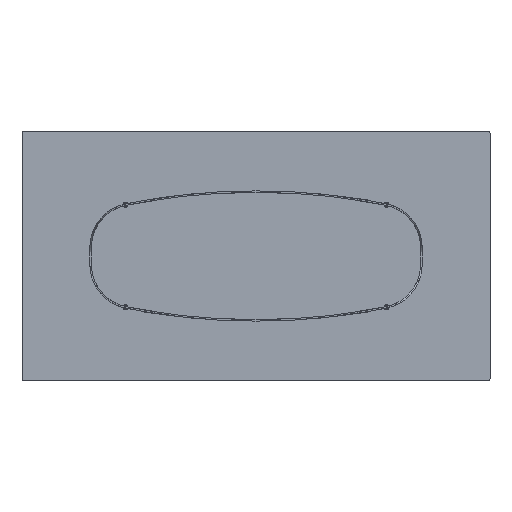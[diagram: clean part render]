
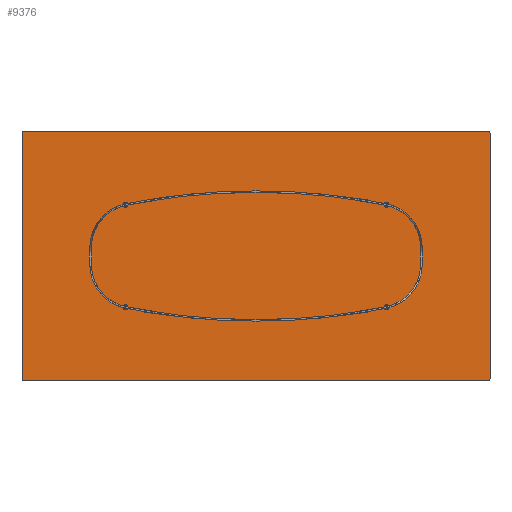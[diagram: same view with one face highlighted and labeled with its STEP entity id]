
A CAD part, front view. The second image highlights one B-rep face of the part: STEP entity #9376.
In plain terms, the highlighted planar face has unit normal (0, -1, 0).
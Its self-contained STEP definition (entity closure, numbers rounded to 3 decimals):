
#65 = CARTESIAN_POINT ( 'NONE',  ( 1000., 0., -525. ) ) ;
#209 = AXIS2_PLACEMENT_3D ( 'NONE', #11189, #4630, #3357 ) ;
#556 = CARTESIAN_POINT ( 'NONE',  ( -1000., 0., -530. ) ) ;
#926 = ORIENTED_EDGE ( 'NONE', *, *, #8266, .T. ) ;
#969 = VERTEX_POINT ( 'NONE', #4380 ) ;
#1160 = CARTESIAN_POINT ( 'NONE',  ( -1000., 0., -525. ) ) ;
#1344 = VERTEX_POINT ( 'NONE', #2923 ) ;
#1709 = VERTEX_POINT ( 'NONE', #7155 ) ;
#2112 = LINE ( 'NONE', #7379, #4562 ) ;
#2194 = DIRECTION ( 'NONE',  ( 0., -1., 0. ) ) ;
#2596 = VERTEX_POINT ( 'NONE', #9387 ) ;
#2645 = CIRCLE ( 'NONE', #10546, 5. ) ;
#2923 = CARTESIAN_POINT ( 'NONE',  ( -1000., 0., 525. ) ) ;
#3112 = ORIENTED_EDGE ( 'NONE', *, *, #5993, .F. ) ;
#3310 = CARTESIAN_POINT ( 'NONE',  ( 995., 0., 525. ) ) ;
#3357 = DIRECTION ( 'NONE',  ( 0., 0., 1. ) ) ;
#3662 = CIRCLE ( 'NONE', #9377, 5. ) ;
#3829 = LINE ( 'NONE', #10213, #8798 ) ;
#4380 = CARTESIAN_POINT ( 'NONE',  ( -995., 0., 530. ) ) ;
#4550 = VECTOR ( 'NONE', #16140, 1000. ) ;
#4562 = VECTOR ( 'NONE', #12570, 1000. ) ;
#4583 = DIRECTION ( 'NONE',  ( 0., 0., 1. ) ) ;
#4630 = DIRECTION ( 'NONE',  ( 0., -1., 0. ) ) ;
#4746 = DIRECTION ( 'NONE',  ( 0., 0., 1. ) ) ;
#4805 = CARTESIAN_POINT ( 'NONE',  ( 995., 0., 530. ) ) ;
#5010 = DIRECTION ( 'NONE',  ( 1., 0., 0. ) ) ;
#5993 = EDGE_CURVE ( 'NONE', #13487, #1344, #7105, .T. ) ;
#6325 = EDGE_CURVE ( 'NONE', #10970, #9722, #11896, .T. ) ;
#7105 = LINE ( 'NONE', #556, #4550 ) ;
#7155 = CARTESIAN_POINT ( 'NONE',  ( 1000., 0., 525. ) ) ;
#7217 = CARTESIAN_POINT ( 'NONE',  ( -995., 0., -525. ) ) ;
#7298 = DIRECTION ( 'NONE',  ( 0., -1., 0. ) ) ;
#7379 = CARTESIAN_POINT ( 'NONE',  ( -1000., 0., -530. ) ) ;
#7692 = LINE ( 'NONE', #15443, #7731 ) ;
#7731 = VECTOR ( 'NONE', #15527, 1000. ) ;
#8266 = EDGE_CURVE ( 'NONE', #969, #1344, #2645, .T. ) ;
#8291 = EDGE_CURVE ( 'NONE', #10970, #2596, #2112, .T. ) ;
#8334 = ORIENTED_EDGE ( 'NONE', *, *, #14124, .T. ) ;
#8489 = DIRECTION ( 'NONE',  ( 0., -1., 0. ) ) ;
#8798 = VECTOR ( 'NONE', #5010, 1000. ) ;
#9007 = CARTESIAN_POINT ( 'NONE',  ( 995., 0., -530. ) ) ;
#9058 = DIRECTION ( 'NONE',  ( 0., 0., 1. ) ) ;
#9308 = EDGE_CURVE ( 'NONE', #13487, #2596, #13431, .T. ) ;
#9376 = ADVANCED_FACE ( 'NONE', ( #11143 ), #14982, .F. ) ;
#9377 = AXIS2_PLACEMENT_3D ( 'NONE', #3310, #7298, #4746 ) ;
#9387 = CARTESIAN_POINT ( 'NONE',  ( -995., 0., -530. ) ) ;
#9688 = ORIENTED_EDGE ( 'NONE', *, *, #6325, .T. ) ;
#9722 = VERTEX_POINT ( 'NONE', #65 ) ;
#9921 = EDGE_CURVE ( 'NONE', #969, #14495, #3829, .T. ) ;
#10213 = CARTESIAN_POINT ( 'NONE',  ( -1000., 0., 530. ) ) ;
#10413 = CARTESIAN_POINT ( 'NONE',  ( -995., 0., 525. ) ) ;
#10546 = AXIS2_PLACEMENT_3D ( 'NONE', #10413, #2194, #9058 ) ;
#10721 = AXIS2_PLACEMENT_3D ( 'NONE', #13608, #10978, #13434 ) ;
#10970 = VERTEX_POINT ( 'NONE', #9007 ) ;
#10978 = DIRECTION ( 'NONE',  ( 0., 1., 0. ) ) ;
#11143 = FACE_OUTER_BOUND ( 'NONE', #12173, .T. ) ;
#11189 = CARTESIAN_POINT ( 'NONE',  ( 995., 0., -525. ) ) ;
#11896 = CIRCLE ( 'NONE', #209, 5. ) ;
#12173 = EDGE_LOOP ( 'NONE', ( #13576, #8334, #13656, #926, #3112, #13103, #15651, #9688 ) ) ;
#12570 = DIRECTION ( 'NONE',  ( -1., 0., 0. ) ) ;
#13103 = ORIENTED_EDGE ( 'NONE', *, *, #9308, .T. ) ;
#13431 = CIRCLE ( 'NONE', #15077, 5. ) ;
#13434 = DIRECTION ( 'NONE',  ( 0., 0., 1. ) ) ;
#13487 = VERTEX_POINT ( 'NONE', #1160 ) ;
#13576 = ORIENTED_EDGE ( 'NONE', *, *, #14565, .F. ) ;
#13608 = CARTESIAN_POINT ( 'NONE',  ( 0., 0., 0. ) ) ;
#13656 = ORIENTED_EDGE ( 'NONE', *, *, #9921, .F. ) ;
#14124 = EDGE_CURVE ( 'NONE', #1709, #14495, #3662, .T. ) ;
#14495 = VERTEX_POINT ( 'NONE', #4805 ) ;
#14565 = EDGE_CURVE ( 'NONE', #1709, #9722, #7692, .T. ) ;
#14982 = PLANE ( 'NONE',  #10721 ) ;
#15077 = AXIS2_PLACEMENT_3D ( 'NONE', #7217, #8489, #4583 ) ;
#15443 = CARTESIAN_POINT ( 'NONE',  ( 1000., 0., -530. ) ) ;
#15527 = DIRECTION ( 'NONE',  ( 0., 0., -1. ) ) ;
#15651 = ORIENTED_EDGE ( 'NONE', *, *, #8291, .F. ) ;
#16140 = DIRECTION ( 'NONE',  ( 0., 0., 1. ) ) ;
